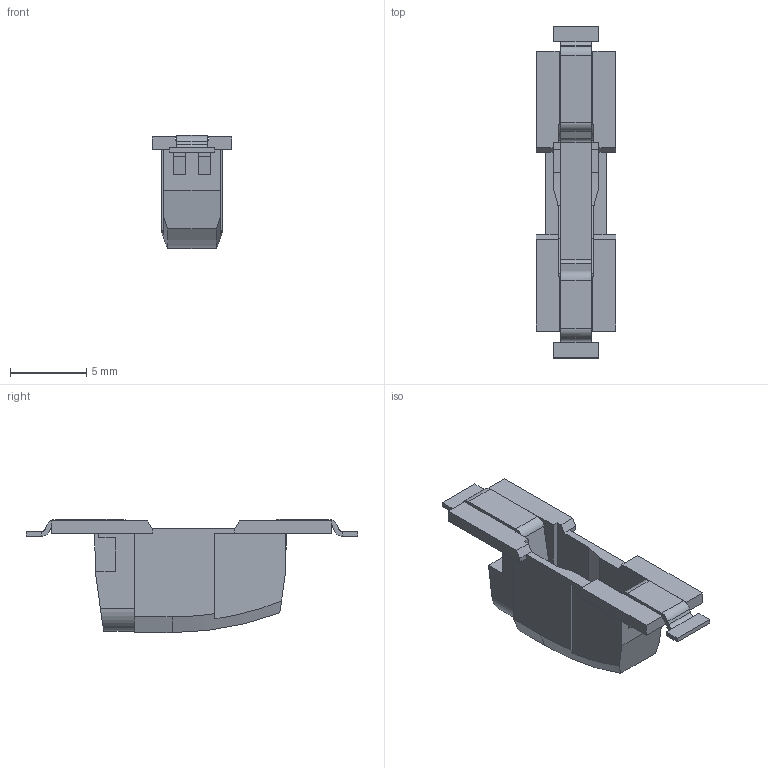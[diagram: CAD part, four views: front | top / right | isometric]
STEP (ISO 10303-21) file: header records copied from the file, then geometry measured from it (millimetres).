
FILE_DESCRIPTION(('CAx-IF Rec.Pracs.---Model Styling and Organization---1.2---2011-12-15','CAx-IF Rec.Pracs.---Geometric and Assembly Validation Properties---4.1---2014-06-16','CAx-IF Rec.Pracs.---PMI Polyline Presentation---2.0---2013-05-24'),'2;1');
FILE_NAME('01WYJ00Y0W.stp','2018-10-23T09:10:53+02:00',(''),(''),'STEP Interface 4.2 by CT CoreTechnologie','3D_Evolution4.2 by CT CoreTechnologie','');
FILE_SCHEMA(('AUTOMOTIVE_DESIGN { 1 0 10303 214 1 1 1 1 }'));
Length unit declared in the file: millimetre
Products named in the file (1): 01WYJ00Y0W
Bounding box: 5.2 x 21.72 x 7.4 mm (x, y, z)
Volume: 188.3 mm3; surface area: 665.7 mm2
Topology: 1 solids, 1 shells, 260 faces, 727 edges, 483 vertices
Faces by surface type: plane 202, cylinder 42, bspline 16
Entity records: 26602 total; most frequent: CARTESIAN_POINT 3092, PROPERTY_DEFINITION 2580, ORIENTED_EDGE 1454, SHAPE_REPRESENTATION 1291, SHAPE_DEFINITION_REPRESENTATION 1291, REPRESENTATION 1290, SHAPE_ASPECT 1290, ID_ATTRIBUTE 1290
